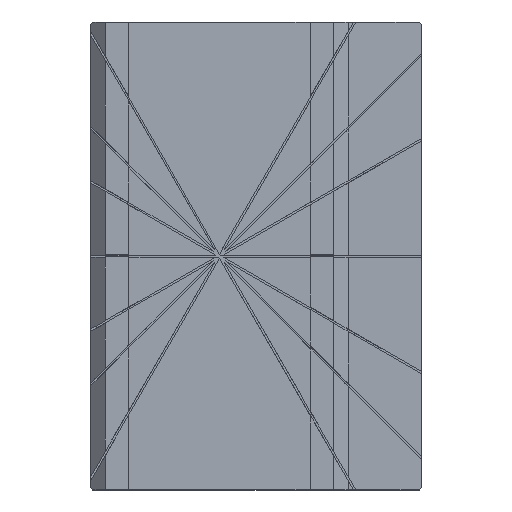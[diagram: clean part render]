
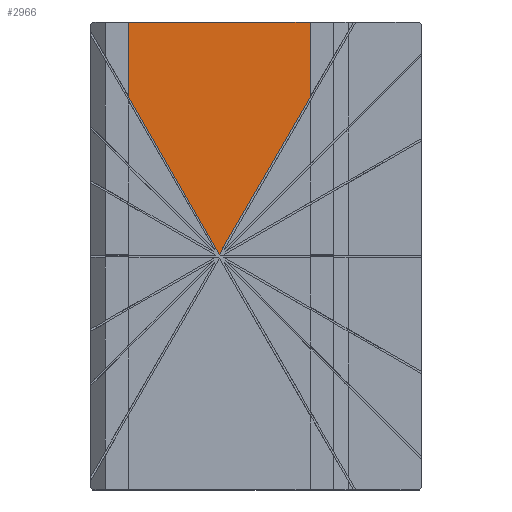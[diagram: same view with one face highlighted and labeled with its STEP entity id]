
A CAD part, top view. The second image highlights one B-rep face of the part: STEP entity #2966.
In plain terms, the highlighted planar face has unit normal (0, 0, 1).
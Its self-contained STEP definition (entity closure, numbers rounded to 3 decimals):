
#656 = EDGE_CURVE('',#657,#659,#661,.T.);
#657 = VERTEX_POINT('',#658);
#658 = CARTESIAN_POINT('',(38.996,80.707,0.));
#659 = VERTEX_POINT('',#660);
#660 = CARTESIAN_POINT('',(7.,136.126,0.));
#661 = LINE('',#662,#663);
#662 = CARTESIAN_POINT('',(41.027,77.19,0.));
#663 = VECTOR('',#664,1.);
#664 = DIRECTION('',(-0.5,0.866,0.));
#2181 = VERTEX_POINT('',#2182);
#2182 = CARTESIAN_POINT('',(7.,160.,0.));
#2188 = EDGE_CURVE('',#2181,#2189,#2191,.T.);
#2189 = VERTEX_POINT('',#2190);
#2190 = CARTESIAN_POINT('',(71.,160.,0.));
#2191 = LINE('',#2192,#2193);
#2192 = CARTESIAN_POINT('',(27.281,160.,0.));
#2193 = VECTOR('',#2194,1.);
#2194 = DIRECTION('',(1.,0.,0.));
#2966 = ADVANCED_FACE('',(#2967),#2991,.T.);
#2967 = FACE_BOUND('',#2968,.T.);
#2968 = EDGE_LOOP('',(#2969,#2970,#2976,#2977,#2985));
#2969 = ORIENTED_EDGE('',*,*,#2188,.F.);
#2970 = ORIENTED_EDGE('',*,*,#2971,.F.);
#2971 = EDGE_CURVE('',#659,#2181,#2972,.T.);
#2972 = LINE('',#2973,#2974);
#2973 = CARTESIAN_POINT('',(7.,0.,0.));
#2974 = VECTOR('',#2975,1.);
#2975 = DIRECTION('',(0.,1.,0.));
#2976 = ORIENTED_EDGE('',*,*,#656,.F.);
#2977 = ORIENTED_EDGE('',*,*,#2978,.F.);
#2978 = EDGE_CURVE('',#2979,#657,#2981,.T.);
#2979 = VERTEX_POINT('',#2980);
#2980 = CARTESIAN_POINT('',(71.,136.092,0.));
#2981 = LINE('',#2982,#2983);
#2982 = CARTESIAN_POINT('',(25.521,57.386,
    0.));
#2983 = VECTOR('',#2984,1.);
#2984 = DIRECTION('',(-0.5,-0.866,0.));
#2985 = ORIENTED_EDGE('',*,*,#2986,.T.);
#2986 = EDGE_CURVE('',#2979,#2189,#2987,.T.);
#2987 = LINE('',#2988,#2989);
#2988 = CARTESIAN_POINT('',(71.,0.,0.));
#2989 = VECTOR('',#2990,1.);
#2990 = DIRECTION('',(0.,1.,0.));
#2991 = PLANE('',#2992);
#2992 = AXIS2_PLACEMENT_3D('',#2993,#2994,#2995);
#2993 = CARTESIAN_POINT('',(39.002,130.082,
    0.));
#2994 = DIRECTION('',(0.,0.,1.));
#2995 = DIRECTION('',(1.,0.,0.));
